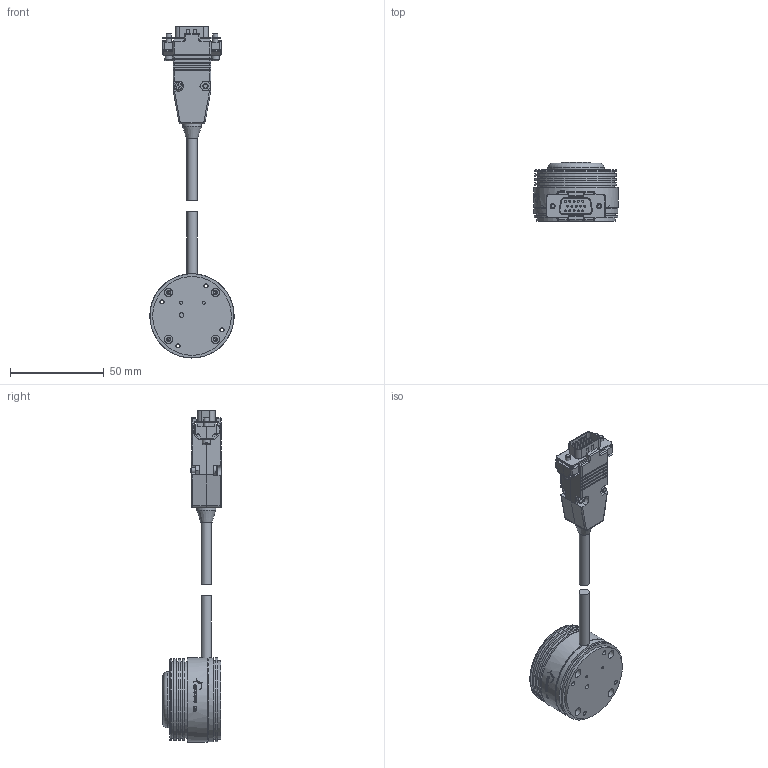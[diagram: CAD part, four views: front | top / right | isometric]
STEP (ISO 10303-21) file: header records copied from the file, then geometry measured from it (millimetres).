
FILE_DESCRIPTION (( 'STEP AP214' ), '1' );
FILE_NAME ('139-507-XX-Envelope_Rev-0-01.STEP', '2023-05-23T09:45:13', ( '' ), ( '' ), 'SwSTEP 2.0', 'SolidWorks 2022', '' );
FILE_SCHEMA (( 'AUTOMOTIVE_DESIGN' ));
Length unit declared in the file: millimetre
Products named in the file (10): 141-833-00; 141-845-00^141-827-00; 141-832-00; 141-827-00; 142-793-XX - ENVELOPE_Blocked sight; 139-508-01_01; 141-844-00_Standard; 141-825-00; 139-506-00_01; 139-507-XX-Envelope_Rev-0-01
Assembly tree (9 placements, depth 3):
  139-507-XX-Envelope_Rev-0-01
    139-506-00_01
    139-508-01_01
    141-827-00
      141-825-00
      141-832-00
      141-833-00
      141-844-00_Standard
      141-845-00^141-827-00
    142-793-XX - ENVELOPE_Blocked sight
Bounding box: 45 x 31.77 x 177.45 mm (x, y, z)
Volume: 40481.5 mm3; surface area: 39575.9 mm2
Topology: 40 solids, 40 shells, 2534 faces, 6457 edges, 4128 vertices
Faces by surface type: plane 1439, cylinder 662, bspline 362, torus 40, cone 31
Full cylindrical faces by diameter (mm): 0.6 x4, 0.89 x4, 1 x16, 1.2 x2, 1.6 x6, 1.829 x2, 2.2 x12, 2.362 x2, 2.4 x12, 2.5 x1, 2.794 x6, 3.251 x2, 3.3 x2, 3.683 x4, 4 x4, 4.166 x2, 4.4 x8, 5.08 x3, 5.5 x2, 10.16 x1, 11.43 x1, 15 x2, 16.4 x1, 18 x1, 20.6 x1, 23.2 x1, 23.5 x1, 26.5 x1, 28 x2, 30 x1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
Entity records: 101816 total; most frequent: CARTESIAN_POINT 29760, ORIENTED_EDGE 12360, DIRECTION 11092, EDGE_CURVE 6180, VERTEX_POINT 4059, VECTOR 3968, LINE 3968, AXIS2_PLACEMENT_3D 3562
